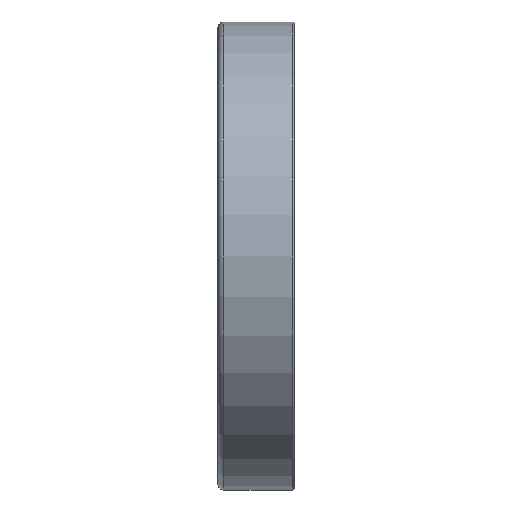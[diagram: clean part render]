
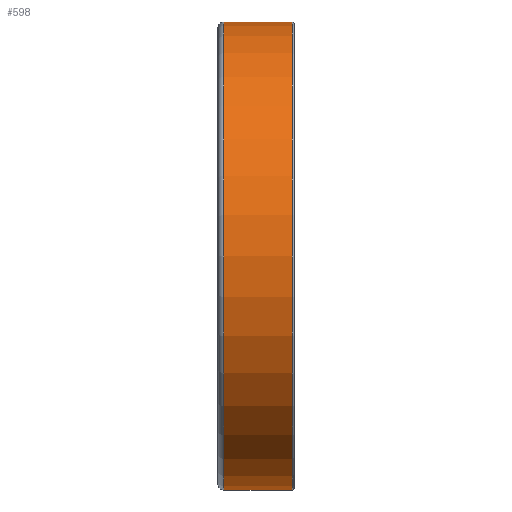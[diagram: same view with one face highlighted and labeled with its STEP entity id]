
A CAD part, front view. The second image highlights one B-rep face of the part: STEP entity #598.
In plain terms, the highlighted cylindrical face has radius 40 mm (diameter 80 mm), a full revolution.
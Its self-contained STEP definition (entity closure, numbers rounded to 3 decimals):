
#176=CYLINDRICAL_SURFACE('',#946,40.);
#288=EDGE_LOOP('',(#412));
#289=EDGE_LOOP('',(#413));
#412=ORIENTED_EDGE('',*,*,#482,.F.);
#413=ORIENTED_EDGE('',*,*,#480,.T.);
#480=EDGE_CURVE('',#867,#867,#500,.T.);
#482=EDGE_CURVE('',#869,#869,#502,.T.);
#500=CIRCLE('',#942,40.);
#502=CIRCLE('',#945,40.);
#598=ADVANCED_FACE('',(#757,#758),#176,.T.);
#757=FACE_BOUND('',#288,.T.);
#758=FACE_BOUND('',#289,.T.);
#867=VERTEX_POINT('',#3690);
#869=VERTEX_POINT('',#3695);
#942=AXIS2_PLACEMENT_3D('',#3689,#1079,#1080);
#945=AXIS2_PLACEMENT_3D('',#3694,#1085,#1086);
#946=AXIS2_PLACEMENT_3D('',#3696,#1087,#1088);
#1079=DIRECTION('',(1.,0.,0.));
#1080=DIRECTION('',(0.,0.,-1.));
#1085=DIRECTION('',(1.,0.,0.));
#1086=DIRECTION('',(0.,0.,-1.));
#1087=DIRECTION('',(1.,0.,0.));
#1088=DIRECTION('',(0.,0.,-1.));
#3689=CARTESIAN_POINT('',(-5.5,0.,0.));
#3690=CARTESIAN_POINT('',(-5.5,0.,-40.));
#3694=CARTESIAN_POINT('',(6.2,0.,0.));
#3695=CARTESIAN_POINT('',(6.2,0.,-40.));
#3696=CARTESIAN_POINT('',(-5.5,0.,0.));
